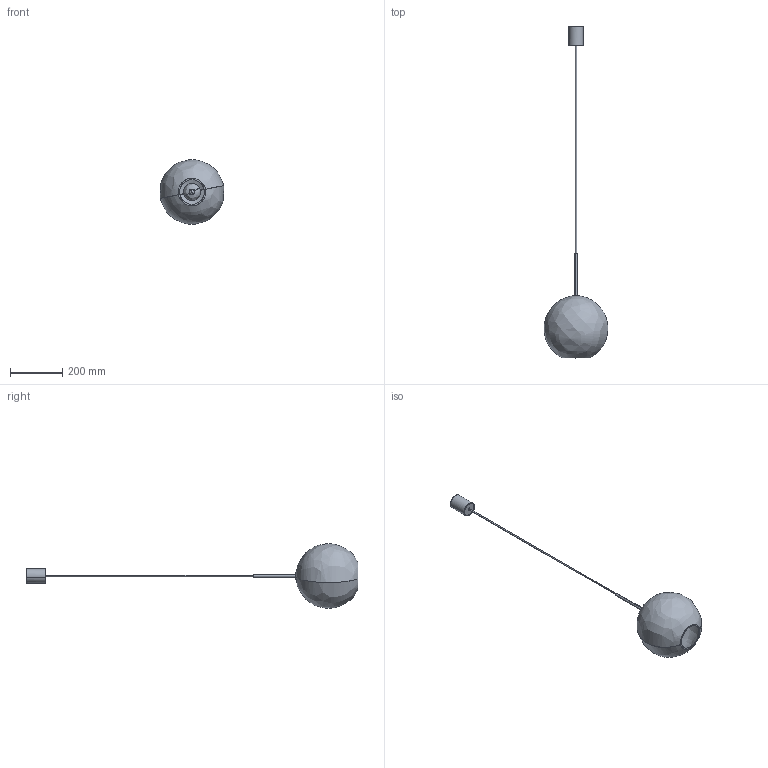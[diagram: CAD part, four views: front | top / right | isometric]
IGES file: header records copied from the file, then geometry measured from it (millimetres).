
Start section: SolidWorks IGES file using NURBS representation for surfaces
Global section: file name: Z:\Modele 3D_WWW\_KOLEKCJE_WWW\SPHERE\SPHERE-L-7850\SPHERE-L-7850.IGS; native system: SolidWorks 2021; preprocessor: SolidWorks 2021; author: gabriela.tworek; date: 210908.095737; units: millimetre
Bounding box: 244.93 x 1275.77 x 249.75 mm (x, y, z)
Surface area: 497864 mm2 (no closed solid volume)
Topology: 0 solids, 0 shells, 430 faces, 5680 edges, 5671 vertices
Faces by surface type: bspline 430
